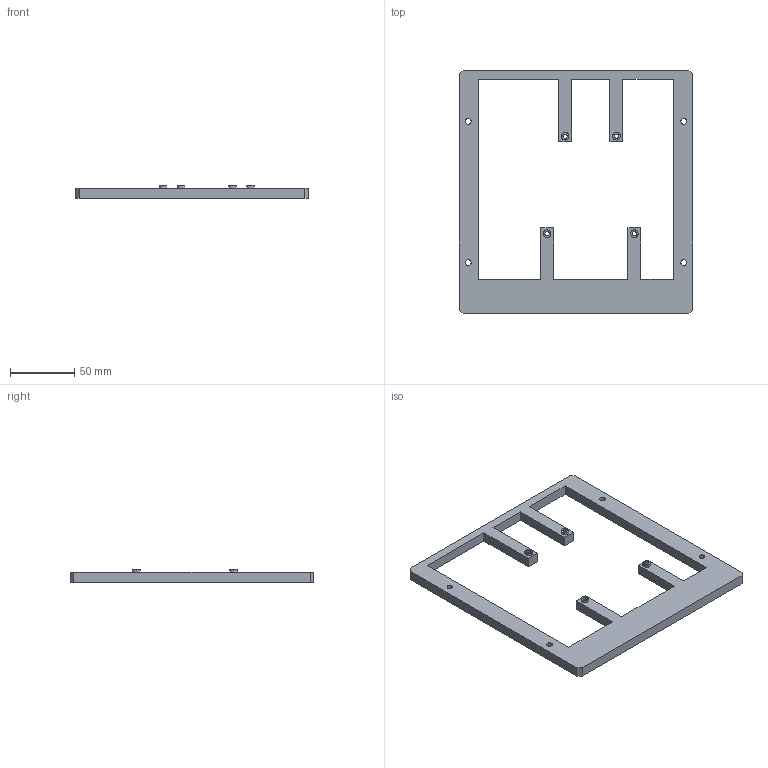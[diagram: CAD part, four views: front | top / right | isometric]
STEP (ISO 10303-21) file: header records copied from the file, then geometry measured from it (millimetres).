
FILE_DESCRIPTION (( 'STEP AP203' ), '1' );
FILE_NAME ('02_tx_carrier_4x4.step', '2026-10-15T09:34:55', ( '' ), ( '' ), 'SwSTEP 2.0', 'SolidWorks 2025', '' );
FILE_SCHEMA (( 'CONFIG_CONTROL_DESIGN' ));
Length unit declared in the file: millimetre
Products named in the file (1): 02_tx_carrier_4x4
Bounding box: 182 x 190 x 10 mm (x, y, z)
Volume: 100394.1 mm3; surface area: 39762.3 mm2
Topology: 1 solids, 1 shells, 58 faces, 156 edges, 104 vertices
Faces by surface type: plane 34, cylinder 24
Entity records: 1941 total; most frequent: DIRECTION 322, CARTESIAN_POINT 319, ORIENTED_EDGE 312, EDGE_CURVE 156, LINE 108, VECTOR 108, AXIS2_PLACEMENT_3D 107, VERTEX_POINT 104
